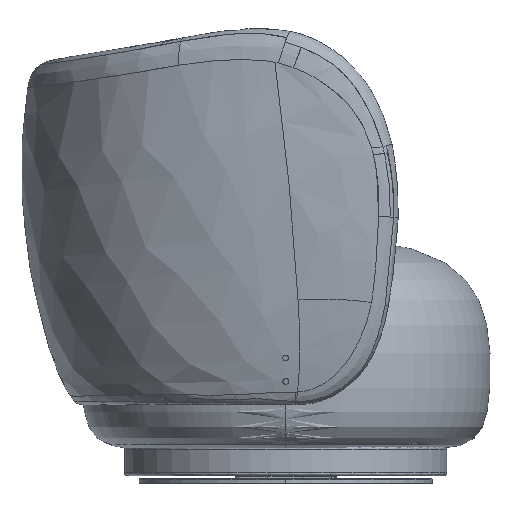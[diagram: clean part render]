
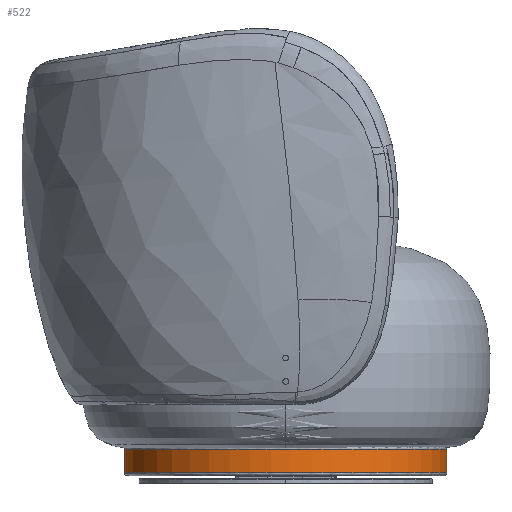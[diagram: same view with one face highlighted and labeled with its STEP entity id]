
A CAD part, left-side view. The second image highlights one B-rep face of the part: STEP entity #522.
In plain terms, the highlighted free-form (B-spline) face has degree [2, 1] with [9, 2] control points.
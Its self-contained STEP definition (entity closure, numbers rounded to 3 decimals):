
#522=ADVANCED_FACE('',(#1488),#18319,.T.);
#1488=FACE_OUTER_BOUND('',#2479,.T.);
#2479=EDGE_LOOP('',(#3727,#3728,#3729,#3730));
#3727=ORIENTED_EDGE('',*,*,#9441,.F.);
#3728=ORIENTED_EDGE('',*,*,#9458,.F.);
#3729=ORIENTED_EDGE('',*,*,#9442,.F.);
#3730=ORIENTED_EDGE('',*,*,#9456,.T.);
#9441=EDGE_CURVE('',#15938,#15942,#12645,.T.);
#9442=EDGE_CURVE('',#15941,#15935,#12646,.T.);
#9456=EDGE_CURVE('',#15941,#15942,#14869,.T.);
#9458=EDGE_CURVE('',#15935,#15938,#14871,.T.);
#12645=B_SPLINE_CURVE_WITH_KNOTS('',1,(#21153,#21154),.UNSPECIFIED.,.F.,
 .F.,(2,2),(0.,40.),.UNSPECIFIED.);
#12646=B_SPLINE_CURVE_WITH_KNOTS('',1,(#21155,#21156),.UNSPECIFIED.,.F.,
 .F.,(2,2),(-40.,0.),.UNSPECIFIED.);
#14869=(
BOUNDED_CURVE()
B_SPLINE_CURVE(2,(#21222,#21223,#21224,#21225,#21226),.UNSPECIFIED.,.F.,
 .F.)
B_SPLINE_CURVE_WITH_KNOTS((3,2,3),(424.115,848.23,1272.345),
 .UNSPECIFIED.)
CURVE()
GEOMETRIC_REPRESENTATION_ITEM()
RATIONAL_B_SPLINE_CURVE((1.,0.707,1.,0.707,1.))
REPRESENTATION_ITEM('')
);
#14871=(
BOUNDED_CURVE()
B_SPLINE_CURVE(2,(#21232,#21233,#21234,#21235,#21236),.UNSPECIFIED.,.F.,
 .F.)
B_SPLINE_CURVE_WITH_KNOTS((3,2,3),(424.115,848.23,1272.345),
 .UNSPECIFIED.)
CURVE()
GEOMETRIC_REPRESENTATION_ITEM()
RATIONAL_B_SPLINE_CURVE((1.,0.707,1.,0.707,1.))
REPRESENTATION_ITEM('')
);
#15935=VERTEX_POINT('',#20935);
#15938=VERTEX_POINT('',#20938);
#15941=VERTEX_POINT('',#20941);
#15942=VERTEX_POINT('',#20942);
#18319=(
BOUNDED_SURFACE()
B_SPLINE_SURFACE(2,1,((#20533,#20534),(#20535,#20536),(#20537,#20538),(#20539,
#20540),(#20541,#20542),(#20543,#20544),(#20545,#20546),(#20547,#20548),
(#20549,#20550)),.UNSPECIFIED.,.T.,.F.,.F.)
B_SPLINE_SURFACE_WITH_KNOTS((3,2,2,2,3),(2,2),(0.,431.969,863.938,
1295.907,1727.876),(0.,48.002),.UNSPECIFIED.)
GEOMETRIC_REPRESENTATION_ITEM()
RATIONAL_B_SPLINE_SURFACE(((1.,1.),(0.707,0.707),
(1.,1.),(0.707,0.707),(1.,1.),(0.707,
0.707),(1.,1.),(0.707,0.707),(1.,1.)))
REPRESENTATION_ITEM('')
SURFACE()
);
#20533=CARTESIAN_POINT('',(4369.657,1203.915,63.247));
#20534=CARTESIAN_POINT('',(4369.657,1203.915,15.244));
#20535=CARTESIAN_POINT('',(4369.657,928.915,63.247));
#20536=CARTESIAN_POINT('',(4369.657,928.915,15.244));
#20537=CARTESIAN_POINT('',(4094.657,928.915,63.247));
#20538=CARTESIAN_POINT('',(4094.657,928.915,15.244));
#20539=CARTESIAN_POINT('',(3819.657,928.915,63.247));
#20540=CARTESIAN_POINT('',(3819.657,928.915,15.244));
#20541=CARTESIAN_POINT('',(3819.657,1203.915,63.247));
#20542=CARTESIAN_POINT('',(3819.657,1203.915,15.244));
#20543=CARTESIAN_POINT('',(3819.657,1478.915,63.247));
#20544=CARTESIAN_POINT('',(3819.657,1478.915,15.244));
#20545=CARTESIAN_POINT('',(4094.657,1478.915,63.247));
#20546=CARTESIAN_POINT('',(4094.657,1478.915,15.244));
#20547=CARTESIAN_POINT('',(4369.657,1478.915,63.247));
#20548=CARTESIAN_POINT('',(4369.657,1478.915,15.244));
#20549=CARTESIAN_POINT('',(4369.657,1203.915,63.247));
#20550=CARTESIAN_POINT('',(4369.657,1203.915,15.244));
#20935=CARTESIAN_POINT('',(4094.657,1478.915,59.246));
#20938=CARTESIAN_POINT('',(4094.657,928.915,59.246));
#20941=CARTESIAN_POINT('',(4094.657,1478.915,19.246));
#20942=CARTESIAN_POINT('',(4094.657,928.915,19.246));
#21153=CARTESIAN_POINT('',(4094.657,928.915,59.246));
#21154=CARTESIAN_POINT('',(4094.657,928.915,19.246));
#21155=CARTESIAN_POINT('',(4094.657,1478.915,19.246));
#21156=CARTESIAN_POINT('',(4094.657,1478.915,59.246));
#21222=CARTESIAN_POINT('',(4094.657,1478.915,19.246));
#21223=CARTESIAN_POINT('',(3819.657,1478.915,19.246));
#21224=CARTESIAN_POINT('',(3819.657,1203.915,19.246));
#21225=CARTESIAN_POINT('',(3819.657,928.915,19.246));
#21226=CARTESIAN_POINT('',(4094.657,928.915,19.246));
#21232=CARTESIAN_POINT('',(4094.657,1478.915,59.246));
#21233=CARTESIAN_POINT('',(3819.657,1478.915,59.246));
#21234=CARTESIAN_POINT('',(3819.657,1203.915,59.246));
#21235=CARTESIAN_POINT('',(3819.657,928.915,59.246));
#21236=CARTESIAN_POINT('',(4094.657,928.915,59.246));
